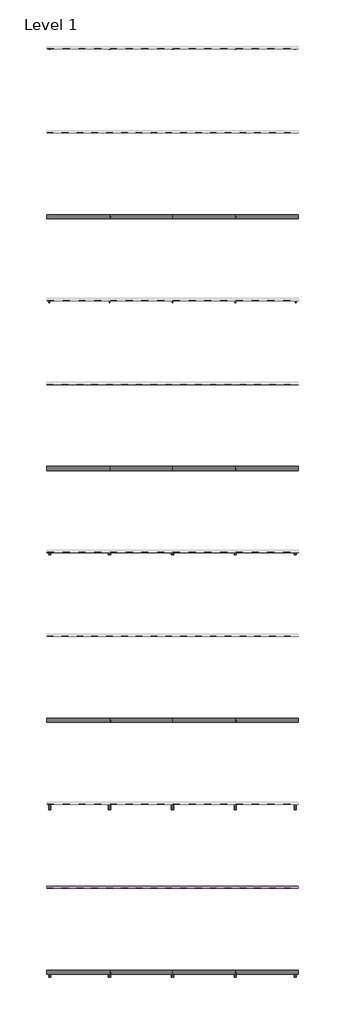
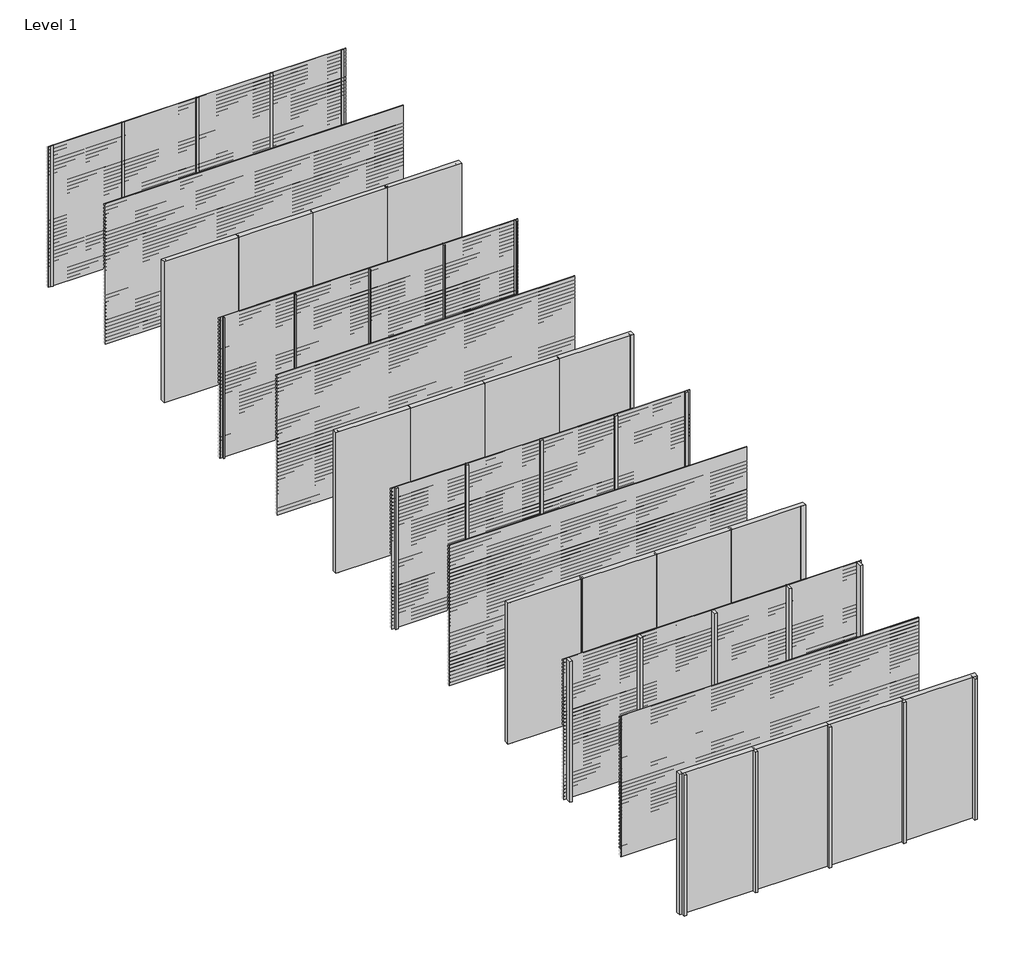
# One storey, part 1 of 9: 40 members, 38 proxies, 36 plates.
"""IFC4 building model written with IfcOpenShell, lengths in millimetres."""

from ifc_helpers import new_model, si_unit, frame, origin, origin_with_axes, place, context, project, spatial, polyline, outline, extrude, transform, mapped, element, save
from components import rectangular_mullion_bbbcbd30, rectangular_mullion_f8d4a220, rectangular_mullion_81aaf6fe, rectangular_mullion_6e08dc26, rectangular_mullion_75c52e10, rectangular_mullion_40295cf1, rectangular_mullion_7f158cb3, rectangular_mullion_66519e13, rectangular_mullion_5829b51c, rectangular_mullion_3b5b8a15, rectangular_mullion_81543344, rectangular_mullion_041a21c4, empty_system_panel_empty_ae16e1e1, empty_system_panel_empty_4cf993bc

model = new_model("IFC4")

# Units and contexts
model_context = context("Model", 3, world=origin())
ifc_project = project(units=[si_unit("LENGTHUNIT", "METRE", prefix="MILLI")], contexts=[model_context])

# Site, building, storey
site = spatial("IfcSite", under=ifc_project)
building = spatial("IfcBuilding", under=site)
storey = spatial("IfcBuildingStorey", under=building, Name="Level 1", Elevation=0.0)

# Proxies
placement = place(None, origin())
element("IfcBuildingElementProxy", 1, Name="Wall Sweeps", at=placement, inside=storey, context=model_context, shape_type="SweptSolid", body=[
    extrude(outline(polyline([(-19995.0, 3000.0), (-19995.0, 2991.2901632), (-19946.0, 2963.0), (-19946.0, 2928.0), (-19997.0, 2957.4448637), (-19997.0, 3000.0), (-19995.0, 3000.0)])), frame((0.0, 0.0, 0.0), z_axis=(1.0, 0.0, 0.0), x_axis=(0.0, 1.0, 0.0)), (0.0, 0.0, 1.0), 6000.0),
])
element("IfcBuildingElementProxy", 2, Name="Wall Sweeps", at=placement, inside=storey, context=model_context, shape_type="SweptSolid", body=[
    extrude(outline(polyline([(-19995.0, 2925.0), (-19995.0, 2916.2901632), (-19946.0, 2888.0), (-19946.0, 2853.0), (-19997.0, 2882.4448637), (-19997.0, 2925.0), (-19995.0, 2925.0)])), frame((0.0, 0.0, 0.0), z_axis=(1.0, 0.0, 0.0), x_axis=(0.0, 1.0, 0.0)), (0.0, 0.0, 1.0), 6000.0),
])
element("IfcBuildingElementProxy", 3, Name="Wall Sweeps", at=placement, inside=storey, context=model_context, shape_type="SweptSolid", body=[
    extrude(outline(polyline([(-19995.0, 2850.0), (-19995.0, 2841.2901632), (-19946.0, 2813.0), (-19946.0, 2778.0), (-19997.0, 2807.4448637), (-19997.0, 2850.0), (-19995.0, 2850.0)])), frame((0.0, 0.0, 0.0), z_axis=(1.0, 0.0, 0.0), x_axis=(0.0, 1.0, 0.0)), (0.0, 0.0, 1.0), 6000.0),
])
element("IfcBuildingElementProxy", 4, Name="Wall Sweeps", at=placement, inside=storey, context=model_context, shape_type="SweptSolid", body=[
    extrude(outline(polyline([(-19995.0, 2775.0), (-19995.0, 2766.2901632), (-19946.0, 2738.0), (-19946.0, 2703.0), (-19997.0, 2732.4448637), (-19997.0, 2775.0), (-19995.0, 2775.0)])), frame((0.0, 0.0, 0.0), z_axis=(1.0, 0.0, 0.0), x_axis=(0.0, 1.0, 0.0)), (0.0, 0.0, 1.0), 6000.0),
])
element("IfcBuildingElementProxy", 5, Name="Wall Sweeps", at=placement, inside=storey, context=model_context, shape_type="SweptSolid", body=[
    extrude(outline(polyline([(-19995.0, 2700.0), (-19995.0, 2691.2901632), (-19946.0, 2663.0), (-19946.0, 2628.0), (-19997.0, 2657.4448637), (-19997.0, 2700.0), (-19995.0, 2700.0)])), frame((0.0, 0.0, 0.0), z_axis=(1.0, 0.0, 0.0), x_axis=(0.0, 1.0, 0.0)), (0.0, 0.0, 1.0), 6000.0),
])
element("IfcBuildingElementProxy", 6, Name="Wall Sweeps", at=placement, inside=storey, context=model_context, shape_type="SweptSolid", body=[
    extrude(outline(polyline([(-19995.0, 2625.0), (-19995.0, 2616.2901632), (-19946.0, 2588.0), (-19946.0, 2553.0), (-19997.0, 2582.4448637), (-19997.0, 2625.0), (-19995.0, 2625.0)])), frame((0.0, 0.0, 0.0), z_axis=(1.0, 0.0, 0.0), x_axis=(0.0, 1.0, 0.0)), (0.0, 0.0, 1.0), 6000.0),
])
element("IfcBuildingElementProxy", 7, Name="Wall Sweeps", at=placement, inside=storey, context=model_context, shape_type="SweptSolid", body=[
    extrude(outline(polyline([(-19995.0, 2550.0), (-19995.0, 2541.2901632), (-19946.0, 2513.0), (-19946.0, 2478.0), (-19997.0, 2507.4448637), (-19997.0, 2550.0), (-19995.0, 2550.0)])), frame((0.0, 0.0, 0.0), z_axis=(1.0, 0.0, 0.0), x_axis=(0.0, 1.0, 0.0)), (0.0, 0.0, 1.0), 6000.0),
])
element("IfcBuildingElementProxy", 8, Name="Wall Sweeps", at=placement, inside=storey, context=model_context, shape_type="SweptSolid", body=[
    extrude(outline(polyline([(-19995.0, 2475.0), (-19995.0, 2466.2901632), (-19946.0, 2438.0), (-19946.0, 2403.0), (-19997.0, 2432.4448637), (-19997.0, 2475.0), (-19995.0, 2475.0)])), frame((0.0, 0.0, 0.0), z_axis=(1.0, 0.0, 0.0), x_axis=(0.0, 1.0, 0.0)), (0.0, 0.0, 1.0), 6000.0),
])
element("IfcBuildingElementProxy", 9, Name="Wall Sweeps", at=placement, inside=storey, context=model_context, shape_type="SweptSolid", body=[
    extrude(outline(polyline([(-19995.0, 2400.0), (-19995.0, 2391.2901632), (-19946.0, 2363.0), (-19946.0, 2328.0), (-19997.0, 2357.4448637), (-19997.0, 2400.0), (-19995.0, 2400.0)])), frame((0.0, 0.0, 0.0), z_axis=(1.0, 0.0, 0.0), x_axis=(0.0, 1.0, 0.0)), (0.0, 0.0, 1.0), 6000.0),
])
element("IfcBuildingElementProxy", 10, Name="Wall Sweeps", at=placement, inside=storey, context=model_context, shape_type="SweptSolid", body=[
    extrude(outline(polyline([(-19995.0, 2325.0), (-19995.0, 2316.2901632), (-19946.0, 2288.0), (-19946.0, 2253.0), (-19997.0, 2282.4448637), (-19997.0, 2325.0), (-19995.0, 2325.0)])), frame((0.0, 0.0, 0.0), z_axis=(1.0, 0.0, 0.0), x_axis=(0.0, 1.0, 0.0)), (0.0, 0.0, 1.0), 6000.0),
])
element("IfcBuildingElementProxy", 11, Name="Wall Sweeps", at=placement, inside=storey, context=model_context, shape_type="SweptSolid", body=[
    extrude(outline(polyline([(-19995.0, 2250.0), (-19995.0, 2241.2901632), (-19946.0, 2213.0), (-19946.0, 2178.0), (-19997.0, 2207.4448637), (-19997.0, 2250.0), (-19995.0, 2250.0)])), frame((0.0, 0.0, 0.0), z_axis=(1.0, 0.0, 0.0), x_axis=(0.0, 1.0, 0.0)), (0.0, 0.0, 1.0), 6000.0),
])
element("IfcBuildingElementProxy", 12, Name="Wall Sweeps", at=placement, inside=storey, context=model_context, shape_type="SweptSolid", body=[
    extrude(outline(polyline([(-19995.0, 2175.0), (-19995.0, 2166.2901632), (-19946.0, 2138.0), (-19946.0, 2103.0), (-19997.0, 2132.4448637), (-19997.0, 2175.0), (-19995.0, 2175.0)])), frame((0.0, 0.0, 0.0), z_axis=(1.0, 0.0, 0.0), x_axis=(0.0, 1.0, 0.0)), (0.0, 0.0, 1.0), 6000.0),
])
element("IfcBuildingElementProxy", 13, Name="Wall Sweeps", at=placement, inside=storey, context=model_context, shape_type="SweptSolid", body=[
    extrude(outline(polyline([(-19995.0, 2100.0), (-19995.0, 2091.2901632), (-19946.0, 2063.0), (-19946.0, 2028.0), (-19997.0, 2057.4448637), (-19997.0, 2100.0), (-19995.0, 2100.0)])), frame((0.0, 0.0, 0.0), z_axis=(1.0, 0.0, 0.0), x_axis=(0.0, 1.0, 0.0)), (0.0, 0.0, 1.0), 6000.0),
])
element("IfcBuildingElementProxy", 14, Name="Wall Sweeps", at=placement, inside=storey, context=model_context, shape_type="SweptSolid", body=[
    extrude(outline(polyline([(-19995.0, 2025.0), (-19995.0, 2016.2901632), (-19946.0, 1988.0), (-19946.0, 1953.0), (-19997.0, 1982.4448637), (-19997.0, 2025.0), (-19995.0, 2025.0)])), frame((0.0, 0.0, 0.0), z_axis=(1.0, 0.0, 0.0), x_axis=(0.0, 1.0, 0.0)), (0.0, 0.0, 1.0), 6000.0),
])
element("IfcBuildingElementProxy", 15, Name="Wall Sweeps", at=placement, inside=storey, context=model_context, shape_type="SweptSolid", body=[
    extrude(outline(polyline([(-19995.0, 1950.0), (-19995.0, 1941.2901632), (-19946.0, 1913.0), (-19946.0, 1878.0), (-19997.0, 1907.4448637), (-19997.0, 1950.0), (-19995.0, 1950.0)])), frame((0.0, 0.0, 0.0), z_axis=(1.0, 0.0, 0.0), x_axis=(0.0, 1.0, 0.0)), (0.0, 0.0, 1.0), 6000.0),
])
element("IfcBuildingElementProxy", 16, Name="Wall Sweeps", at=placement, inside=storey, context=model_context, shape_type="SweptSolid", body=[
    extrude(outline(polyline([(-19995.0, 1875.0), (-19995.0, 1866.2901632), (-19946.0, 1838.0), (-19946.0, 1803.0), (-19997.0, 1832.4448637), (-19997.0, 1875.0), (-19995.0, 1875.0)])), frame((0.0, 0.0, 0.0), z_axis=(1.0, 0.0, 0.0), x_axis=(0.0, 1.0, 0.0)), (0.0, 0.0, 1.0), 6000.0),
])
element("IfcBuildingElementProxy", 17, Name="Wall Sweeps", at=placement, inside=storey, context=model_context, shape_type="SweptSolid", body=[
    extrude(outline(polyline([(-19995.0, 1800.0), (-19995.0, 1791.2901632), (-19946.0, 1763.0), (-19946.0, 1728.0), (-19997.0, 1757.4448637), (-19997.0, 1800.0), (-19995.0, 1800.0)])), frame((0.0, 0.0, 0.0), z_axis=(1.0, 0.0, 0.0), x_axis=(0.0, 1.0, 0.0)), (0.0, 0.0, 1.0), 6000.0),
])
element("IfcBuildingElementProxy", 18, Name="Wall Sweeps", at=placement, inside=storey, context=model_context, shape_type="SweptSolid", body=[
    extrude(outline(polyline([(-19995.0, 1725.0), (-19995.0, 1716.2901632), (-19946.0, 1688.0), (-19946.0, 1653.0), (-19997.0, 1682.4448637), (-19997.0, 1725.0), (-19995.0, 1725.0)])), frame((0.0, 0.0, 0.0), z_axis=(1.0, 0.0, 0.0), x_axis=(0.0, 1.0, 0.0)), (0.0, 0.0, 1.0), 6000.0),
])
element("IfcBuildingElementProxy", 19, Name="Wall Sweeps", at=placement, inside=storey, context=model_context, shape_type="SweptSolid", body=[
    extrude(outline(polyline([(-19995.0, 1650.0), (-19995.0, 1641.2901632), (-19946.0, 1613.0), (-19946.0, 1578.0), (-19997.0, 1607.4448637), (-19997.0, 1650.0), (-19995.0, 1650.0)])), frame((0.0, 0.0, 0.0), z_axis=(1.0, 0.0, 0.0), x_axis=(0.0, 1.0, 0.0)), (0.0, 0.0, 1.0), 6000.0),
])
element("IfcBuildingElementProxy", 20, Name="Wall Sweeps", at=placement, inside=storey, context=model_context, shape_type="SweptSolid", body=[
    extrude(outline(polyline([(-19995.0, 1575.0), (-19995.0, 1566.2901632), (-19946.0, 1538.0), (-19946.0, 1503.0), (-19997.0, 1532.4448637), (-19997.0, 1575.0), (-19995.0, 1575.0)])), frame((0.0, 0.0, 0.0), z_axis=(1.0, 0.0, 0.0), x_axis=(0.0, 1.0, 0.0)), (0.0, 0.0, 1.0), 6000.0),
])
element("IfcBuildingElementProxy", 21, Name="Wall Sweeps", at=placement, inside=storey, context=model_context, shape_type="SweptSolid", body=[
    extrude(outline(polyline([(-19995.0, 1500.0), (-19995.0, 1491.2901632), (-19946.0, 1463.0), (-19946.0, 1428.0), (-19997.0, 1457.4448637), (-19997.0, 1500.0), (-19995.0, 1500.0)])), frame((0.0, 0.0, 0.0), z_axis=(1.0, 0.0, 0.0), x_axis=(0.0, 1.0, 0.0)), (0.0, 0.0, 1.0), 6000.0),
])
element("IfcBuildingElementProxy", 22, Name="Wall Sweeps", at=placement, inside=storey, context=model_context, shape_type="SweptSolid", body=[
    extrude(outline(polyline([(-19995.0, 1425.0), (-19995.0, 1416.2901632), (-19946.0, 1388.0), (-19946.0, 1353.0), (-19997.0, 1382.4448637), (-19997.0, 1425.0), (-19995.0, 1425.0)])), frame((0.0, 0.0, 0.0), z_axis=(1.0, 0.0, 0.0), x_axis=(0.0, 1.0, 0.0)), (0.0, 0.0, 1.0), 6000.0),
])
element("IfcBuildingElementProxy", 23, Name="Wall Sweeps", at=placement, inside=storey, context=model_context, shape_type="SweptSolid", body=[
    extrude(outline(polyline([(-19995.0, 1350.0), (-19995.0, 1341.2901632), (-19946.0, 1313.0), (-19946.0, 1278.0), (-19997.0, 1307.4448637), (-19997.0, 1350.0), (-19995.0, 1350.0)])), frame((0.0, 0.0, 0.0), z_axis=(1.0, 0.0, 0.0), x_axis=(0.0, 1.0, 0.0)), (0.0, 0.0, 1.0), 6000.0),
])
element("IfcBuildingElementProxy", 24, Name="Wall Sweeps", at=placement, inside=storey, context=model_context, shape_type="SweptSolid", body=[
    extrude(outline(polyline([(-19995.0, 1275.0), (-19995.0, 1266.2901632), (-19946.0, 1238.0), (-19946.0, 1203.0), (-19997.0, 1232.4448637), (-19997.0, 1275.0), (-19995.0, 1275.0)])), frame((0.0, 0.0, 0.0), z_axis=(1.0, 0.0, 0.0), x_axis=(0.0, 1.0, 0.0)), (0.0, 0.0, 1.0), 6000.0),
])
element("IfcBuildingElementProxy", 25, Name="Wall Sweeps", at=placement, inside=storey, context=model_context, shape_type="SweptSolid", body=[
    extrude(outline(polyline([(-19995.0, 1200.0), (-19995.0, 1191.2901632), (-19946.0, 1163.0), (-19946.0, 1128.0), (-19997.0, 1157.4448637), (-19997.0, 1200.0), (-19995.0, 1200.0)])), frame((0.0, 0.0, 0.0), z_axis=(1.0, 0.0, 0.0), x_axis=(0.0, 1.0, 0.0)), (0.0, 0.0, 1.0), 6000.0),
])
element("IfcBuildingElementProxy", 26, Name="Wall Sweeps", at=placement, inside=storey, context=model_context, shape_type="SweptSolid", body=[
    extrude(outline(polyline([(-19995.0, 1125.0), (-19995.0, 1116.2901632), (-19946.0, 1088.0), (-19946.0, 1053.0), (-19997.0, 1082.4448637), (-19997.0, 1125.0), (-19995.0, 1125.0)])), frame((0.0, 0.0, 0.0), z_axis=(1.0, 0.0, 0.0), x_axis=(0.0, 1.0, 0.0)), (0.0, 0.0, 1.0), 6000.0),
])
element("IfcBuildingElementProxy", 27, Name="Wall Sweeps", at=placement, inside=storey, context=model_context, shape_type="SweptSolid", body=[
    extrude(outline(polyline([(-19995.0, 1050.0), (-19995.0, 1041.2901632), (-19946.0, 1013.0), (-19946.0, 978.0), (-19997.0, 1007.4448637), (-19997.0, 1050.0), (-19995.0, 1050.0)])), frame((0.0, 0.0, 0.0), z_axis=(1.0, 0.0, 0.0), x_axis=(0.0, 1.0, 0.0)), (0.0, 0.0, 1.0), 6000.0),
])
element("IfcBuildingElementProxy", 28, Name="Wall Sweeps", at=placement, inside=storey, context=model_context, shape_type="SweptSolid", body=[
    extrude(outline(polyline([(-19995.0, 975.0), (-19995.0, 966.2901632), (-19946.0, 938.0), (-19946.0, 903.0), (-19997.0, 932.4448637), (-19997.0, 975.0), (-19995.0, 975.0)])), frame((0.0, 0.0, 0.0), z_axis=(1.0, 0.0, 0.0), x_axis=(0.0, 1.0, 0.0)), (0.0, 0.0, 1.0), 6000.0),
])
element("IfcBuildingElementProxy", 29, Name="Wall Sweeps", at=placement, inside=storey, context=model_context, shape_type="SweptSolid", body=[
    extrude(outline(polyline([(-19995.0, 900.0), (-19995.0, 891.2901632), (-19946.0, 863.0), (-19946.0, 828.0), (-19997.0, 857.4448637), (-19997.0, 900.0), (-19995.0, 900.0)])), frame((0.0, 0.0, 0.0), z_axis=(1.0, 0.0, 0.0), x_axis=(0.0, 1.0, 0.0)), (0.0, 0.0, 1.0), 6000.0),
])
element("IfcBuildingElementProxy", 30, Name="Wall Sweeps", at=placement, inside=storey, context=model_context, shape_type="SweptSolid", body=[
    extrude(outline(polyline([(-19995.0, 825.0), (-19995.0, 816.2901632), (-19946.0, 788.0), (-19946.0, 753.0), (-19997.0, 782.4448637), (-19997.0, 825.0), (-19995.0, 825.0)])), frame((0.0, 0.0, 0.0), z_axis=(1.0, 0.0, 0.0), x_axis=(0.0, 1.0, 0.0)), (0.0, 0.0, 1.0), 6000.0),
])
element("IfcBuildingElementProxy", 31, Name="Wall Sweeps", at=placement, inside=storey, context=model_context, shape_type="SweptSolid", body=[
    extrude(outline(polyline([(-19995.0, 750.0), (-19995.0, 741.2901632), (-19946.0, 713.0), (-19946.0, 678.0), (-19997.0, 707.4448637), (-19997.0, 750.0), (-19995.0, 750.0)])), frame((0.0, 0.0, 0.0), z_axis=(1.0, 0.0, 0.0), x_axis=(0.0, 1.0, 0.0)), (0.0, 0.0, 1.0), 6000.0),
])
element("IfcBuildingElementProxy", 32, Name="Wall Sweeps", at=placement, inside=storey, context=model_context, shape_type="SweptSolid", body=[
    extrude(outline(polyline([(-19995.0, 675.0), (-19995.0, 666.2901632), (-19946.0, 638.0), (-19946.0, 603.0), (-19997.0, 632.4448637), (-19997.0, 675.0), (-19995.0, 675.0)])), frame((0.0, 0.0, 0.0), z_axis=(1.0, 0.0, 0.0), x_axis=(0.0, 1.0, 0.0)), (0.0, 0.0, 1.0), 6000.0),
])
element("IfcBuildingElementProxy", 33, Name="Wall Sweeps", at=placement, inside=storey, context=model_context, shape_type="SweptSolid", body=[
    extrude(outline(polyline([(-19995.0, 600.0), (-19995.0, 591.2901632), (-19946.0, 563.0), (-19946.0, 528.0), (-19997.0, 557.4448637), (-19997.0, 600.0), (-19995.0, 600.0)])), frame((0.0, 0.0, 0.0), z_axis=(1.0, 0.0, 0.0), x_axis=(0.0, 1.0, 0.0)), (0.0, 0.0, 1.0), 6000.0),
])
element("IfcBuildingElementProxy", 34, Name="Wall Sweeps", at=placement, inside=storey, context=model_context, shape_type="SweptSolid", body=[
    extrude(outline(polyline([(-19995.0, 525.0), (-19995.0, 516.2901632), (-19946.0, 488.0), (-19946.0, 453.0), (-19997.0, 482.4448637), (-19997.0, 525.0), (-19995.0, 525.0)])), frame((0.0, 0.0, 0.0), z_axis=(1.0, 0.0, 0.0), x_axis=(0.0, 1.0, 0.0)), (0.0, 0.0, 1.0), 6000.0),
])
element("IfcBuildingElementProxy", 35, Name="Wall Sweeps", at=placement, inside=storey, context=model_context, shape_type="SweptSolid", body=[
    extrude(outline(polyline([(-19995.0, 450.0), (-19995.0, 441.2901632), (-19946.0, 413.0), (-19946.0, 378.0), (-19997.0, 407.4448637), (-19997.0, 450.0), (-19995.0, 450.0)])), frame((0.0, 0.0, 0.0), z_axis=(1.0, 0.0, 0.0), x_axis=(0.0, 1.0, 0.0)), (0.0, 0.0, 1.0), 6000.0),
])
element("IfcBuildingElementProxy", 36, Name="Wall Sweeps", at=placement, inside=storey, context=model_context, shape_type="SweptSolid", body=[
    extrude(outline(polyline([(-19995.0, 375.0), (-19995.0, 366.2901632), (-19946.0, 338.0), (-19946.0, 303.0), (-19997.0, 332.4448637), (-19997.0, 375.0), (-19995.0, 375.0)])), frame((0.0, 0.0, 0.0), z_axis=(1.0, 0.0, 0.0), x_axis=(0.0, 1.0, 0.0)), (0.0, 0.0, 1.0), 6000.0),
])
element("IfcBuildingElementProxy", 37, Name="Wall Sweeps", at=placement, inside=storey, context=model_context, shape_type="SweptSolid", body=[
    extrude(outline(polyline([(-19995.0, 300.0), (-19995.0, 291.2901632), (-19946.0, 263.0), (-19946.0, 228.0), (-19997.0, 257.4448637), (-19997.0, 300.0), (-19995.0, 300.0)])), frame((0.0, 0.0, 0.0), z_axis=(1.0, 0.0, 0.0), x_axis=(0.0, 1.0, 0.0)), (0.0, 0.0, 1.0), 6000.0),
])
element("IfcBuildingElementProxy", 38, Name="Wall Sweeps", at=placement, inside=storey, context=model_context, shape_type="SweptSolid", body=[
    extrude(outline(polyline([(-19995.0, 225.0), (-19995.0, 216.2901632), (-19946.0, 188.0), (-19946.0, 153.0), (-19997.0, 182.4448637), (-19997.0, 225.0), (-19995.0, 225.0)])), frame((0.0, 0.0, 0.0), z_axis=(1.0, 0.0, 0.0), x_axis=(0.0, 1.0, 0.0)), (0.0, 0.0, 1.0), 6000.0),
])

# Members
rectangular_mullion_shape = rectangular_mullion_bbbcbd30(model_context)
element("IfcMember", 39, ObjectType="Rectangular Mullion : RSen_21_CWM_support profile - 50x12 - left_gen_duco projects", at=placement, inside=storey, context=model_context, shape_type="MappedRepresentation", body=[
    mapped(rectangular_mullion_shape, transform((0.0, 0.0, 0.0), x_axis=(-1.0, 0.0, 0.0), y_axis=(0.0, 1.0, 0.0), z_axis=(0.0, 0.0, -1.0))),
])
element("IfcMember", 40, ObjectType="Rectangular Mullion : RSen_21_CWM_support profile - 50x12 - left_gen_duco projects", at=placement, inside=storey, context=model_context, shape_type="MappedRepresentation", body=[
    mapped(rectangular_mullion_shape, transform((0.0, -4000.0, 0.0), x_axis=(-1.0, 0.0, 0.0), y_axis=(0.0, 1.0, 0.0), z_axis=(0.0, 0.0, -1.0))),
])
rectangular_mullion_2_shape = rectangular_mullion_f8d4a220(model_context)
element("IfcMember", 41, ObjectType="Rectangular Mullion : RSen_21_CWM_support profile - 50x12 - right_gen_duco projects", at=placement, inside=storey, context=model_context, shape_type="MappedRepresentation", body=[
    mapped(rectangular_mullion_2_shape, transform((6000.0, 0.0, 3000.0), x_axis=(1.0, 0.0, 0.0), y_axis=(0.0, 1.0, 0.0), z_axis=(0.0, 0.0, 1.0))),
])
element("IfcMember", 42, ObjectType="Rectangular Mullion : RSen_21_CWM_support profile - 50x12 - right_gen_duco projects", at=placement, inside=storey, context=model_context, shape_type="MappedRepresentation", body=[
    mapped(rectangular_mullion_2_shape, transform((6000.0, -4000.0, 3000.0), x_axis=(1.0, 0.0, 0.0), y_axis=(0.0, 1.0, 0.0), z_axis=(0.0, 0.0, 1.0))),
])
rectangular_mullion_3_shape = rectangular_mullion_81aaf6fe(model_context)
element("IfcMember", 43, ObjectType="Rectangular Mullion : RSen_21_CWM_support profile - 21x50 Multi - left_gen_duco projects", at=placement, inside=storey, context=model_context, shape_type="MappedRepresentation", body=[
    mapped(rectangular_mullion_3_shape, transform((0.0, -6000.0, 0.0), x_axis=(-1.0, 0.0, 0.0), y_axis=(0.0, 1.0, 0.0), z_axis=(0.0, 0.0, -1.0))),
])
element("IfcMember", 44, ObjectType="Rectangular Mullion : RSen_21_CWM_support profile - 21x50 Multi - left_gen_duco projects", at=placement, inside=storey, context=model_context, shape_type="MappedRepresentation", body=[
    mapped(rectangular_mullion_3_shape, transform((0.0, -10000.0, 0.0), x_axis=(-1.0, 0.0, 0.0), y_axis=(0.0, 1.0, 0.0), z_axis=(0.0, 0.0, -1.0))),
])
rectangular_mullion_4_shape = rectangular_mullion_6e08dc26(model_context)
element("IfcMember", 45, ObjectType="Rectangular Mullion : RSen_21_CWM_support profile - 21x50 Multi - right_gen_duco projects", at=placement, inside=storey, context=model_context, shape_type="MappedRepresentation", body=[
    mapped(rectangular_mullion_4_shape, transform((6000.0, -6000.0, 3000.0), x_axis=(1.0, 0.0, 0.0), y_axis=(0.0, 1.0, 0.0), z_axis=(0.0, 0.0, 1.0))),
])
element("IfcMember", 46, ObjectType="Rectangular Mullion : RSen_21_CWM_support profile - 21x50 Multi - right_gen_duco projects", at=placement, inside=storey, context=model_context, shape_type="MappedRepresentation", body=[
    mapped(rectangular_mullion_4_shape, transform((6000.0, -10000.0, 3000.0), x_axis=(1.0, 0.0, 0.0), y_axis=(0.0, 1.0, 0.0), z_axis=(0.0, 0.0, 1.0))),
])
rectangular_mullion_5_shape = rectangular_mullion_75c52e10(model_context)
element("IfcMember", 47, ObjectType="Rectangular Mullion : RSen_21_CWM_support profile - 50x50 - left_gen_duco projects", at=placement, inside=storey, context=model_context, shape_type="MappedRepresentation", body=[
    mapped(rectangular_mullion_5_shape, transform((0.0, -12000.0, 0.0), x_axis=(-1.0, 0.0, 0.0), y_axis=(0.0, 1.0, 0.0), z_axis=(0.0, 0.0, -1.0))),
])
element("IfcMember", 48, ObjectType="Rectangular Mullion : RSen_21_CWM_support profile - 50x50 - left_gen_duco projects", at=placement, inside=storey, context=model_context, shape_type="MappedRepresentation", body=[
    mapped(rectangular_mullion_5_shape, transform((0.0, -16000.0, 0.0), x_axis=(-1.0, 0.0, 0.0), y_axis=(0.0, 1.0, 0.0), z_axis=(0.0, 0.0, -1.0))),
])
rectangular_mullion_6_shape = rectangular_mullion_40295cf1(model_context)
element("IfcMember", 49, ObjectType="Rectangular Mullion : RSen_21_CWM_support profile - 50x50 - right_gen_duco projects", at=placement, inside=storey, context=model_context, shape_type="MappedRepresentation", body=[
    mapped(rectangular_mullion_6_shape, transform((6000.0, -12000.0, 3000.0), x_axis=(1.0, 0.0, 0.0), y_axis=(0.0, 1.0, 0.0), z_axis=(0.0, 0.0, 1.0))),
])
element("IfcMember", 50, ObjectType="Rectangular Mullion : RSen_21_CWM_support profile - 50x50 - right_gen_duco projects", at=placement, inside=storey, context=model_context, shape_type="MappedRepresentation", body=[
    mapped(rectangular_mullion_6_shape, transform((6000.0, -16000.0, 3000.0), x_axis=(1.0, 0.0, 0.0), y_axis=(0.0, 1.0, 0.0), z_axis=(0.0, 0.0, 1.0))),
])
rectangular_mullion_7_shape = rectangular_mullion_7f158cb3(model_context)
element("IfcMember", 51, ObjectType="Rectangular Mullion : RSen_21_CWM_support profile - 50x12_gen_duco projects", at=placement, inside=storey, context=model_context, shape_type="MappedRepresentation", body=[
    mapped(rectangular_mullion_7_shape, transform((4500.0, 0.0, 0.0), x_axis=(-1.0, 0.0, 0.0), y_axis=(0.0, 1.0, 0.0), z_axis=(0.0, 0.0, -1.0))),
])
element("IfcMember", 52, ObjectType="Rectangular Mullion : RSen_21_CWM_support profile - 50x12_gen_duco projects", at=placement, inside=storey, context=model_context, shape_type="MappedRepresentation", body=[
    mapped(rectangular_mullion_7_shape, transform((3000.0, 0.0, 0.0), x_axis=(-1.0, 0.0, 0.0), y_axis=(0.0, 1.0, 0.0), z_axis=(0.0, 0.0, -1.0))),
])
element("IfcMember", 53, ObjectType="Rectangular Mullion : RSen_21_CWM_support profile - 50x12_gen_duco projects", at=placement, inside=storey, context=model_context, shape_type="MappedRepresentation", body=[
    mapped(rectangular_mullion_7_shape, transform((1500.0, 0.0, 0.0), x_axis=(-1.0, 0.0, 0.0), y_axis=(0.0, 1.0, 0.0), z_axis=(0.0, 0.0, -1.0))),
])
element("IfcMember", 54, ObjectType="Rectangular Mullion : RSen_21_CWM_support profile - 50x12_gen_duco projects", at=placement, inside=storey, context=model_context, shape_type="MappedRepresentation", body=[
    mapped(rectangular_mullion_7_shape, transform((4500.0, -4000.0, 0.0), x_axis=(-1.0, 0.0, 0.0), y_axis=(0.0, 1.0, 0.0), z_axis=(0.0, 0.0, -1.0))),
])
element("IfcMember", 55, ObjectType="Rectangular Mullion : RSen_21_CWM_support profile - 50x12_gen_duco projects", at=placement, inside=storey, context=model_context, shape_type="MappedRepresentation", body=[
    mapped(rectangular_mullion_7_shape, transform((3000.0, -4000.0, 0.0), x_axis=(-1.0, 0.0, 0.0), y_axis=(0.0, 1.0, 0.0), z_axis=(0.0, 0.0, -1.0))),
])
element("IfcMember", 56, ObjectType="Rectangular Mullion : RSen_21_CWM_support profile - 50x12_gen_duco projects", at=placement, inside=storey, context=model_context, shape_type="MappedRepresentation", body=[
    mapped(rectangular_mullion_7_shape, transform((1500.0, -4000.0, 0.0), x_axis=(-1.0, 0.0, 0.0), y_axis=(0.0, 1.0, 0.0), z_axis=(0.0, 0.0, -1.0))),
])
rectangular_mullion_8_shape = rectangular_mullion_66519e13(model_context)
element("IfcMember", 57, ObjectType="Rectangular Mullion : RSen_21_CWM_support profile - 21x50 Multi_gen_duco projects", at=placement, inside=storey, context=model_context, shape_type="MappedRepresentation", body=[
    mapped(rectangular_mullion_8_shape, transform((4500.0, -6000.0, 0.0), x_axis=(-1.0, 0.0, 0.0), y_axis=(0.0, 1.0, 0.0), z_axis=(0.0, 0.0, -1.0))),
])
element("IfcMember", 58, ObjectType="Rectangular Mullion : RSen_21_CWM_support profile - 21x50 Multi_gen_duco projects", at=placement, inside=storey, context=model_context, shape_type="MappedRepresentation", body=[
    mapped(rectangular_mullion_8_shape, transform((3000.0, -6000.0, 0.0), x_axis=(-1.0, 0.0, 0.0), y_axis=(0.0, 1.0, 0.0), z_axis=(0.0, 0.0, -1.0))),
])
element("IfcMember", 59, ObjectType="Rectangular Mullion : RSen_21_CWM_support profile - 21x50 Multi_gen_duco projects", at=placement, inside=storey, context=model_context, shape_type="MappedRepresentation", body=[
    mapped(rectangular_mullion_8_shape, transform((1500.0, -6000.0, 0.0), x_axis=(-1.0, 0.0, 0.0), y_axis=(0.0, 1.0, 0.0), z_axis=(0.0, 0.0, -1.0))),
])
element("IfcMember", 60, ObjectType="Rectangular Mullion : RSen_21_CWM_support profile - 21x50 Multi_gen_duco projects", at=placement, inside=storey, context=model_context, shape_type="MappedRepresentation", body=[
    mapped(rectangular_mullion_8_shape, transform((4500.0, -10000.0, 0.0), x_axis=(-1.0, 0.0, 0.0), y_axis=(0.0, 1.0, 0.0), z_axis=(0.0, 0.0, -1.0))),
])
element("IfcMember", 61, ObjectType="Rectangular Mullion : RSen_21_CWM_support profile - 21x50 Multi_gen_duco projects", at=placement, inside=storey, context=model_context, shape_type="MappedRepresentation", body=[
    mapped(rectangular_mullion_8_shape, transform((3000.0, -10000.0, 0.0), x_axis=(-1.0, 0.0, 0.0), y_axis=(0.0, 1.0, 0.0), z_axis=(0.0, 0.0, -1.0))),
])
element("IfcMember", 62, ObjectType="Rectangular Mullion : RSen_21_CWM_support profile - 21x50 Multi_gen_duco projects", at=placement, inside=storey, context=model_context, shape_type="MappedRepresentation", body=[
    mapped(rectangular_mullion_8_shape, transform((1500.0, -10000.0, 0.0), x_axis=(-1.0, 0.0, 0.0), y_axis=(0.0, 1.0, 0.0), z_axis=(0.0, 0.0, -1.0))),
])
rectangular_mullion_9_shape = rectangular_mullion_5829b51c(model_context)
element("IfcMember", 63, ObjectType="Rectangular Mullion : RSen_21_CWM_support profile - 50x50_gen_duco projects", at=placement, inside=storey, context=model_context, shape_type="MappedRepresentation", body=[
    mapped(rectangular_mullion_9_shape, transform((4500.0, -12000.0, 0.0), x_axis=(-1.0, 0.0, 0.0), y_axis=(0.0, 1.0, 0.0), z_axis=(0.0, 0.0, -1.0))),
])
element("IfcMember", 64, ObjectType="Rectangular Mullion : RSen_21_CWM_support profile - 50x50_gen_duco projects", at=placement, inside=storey, context=model_context, shape_type="MappedRepresentation", body=[
    mapped(rectangular_mullion_9_shape, transform((3000.0, -12000.0, 0.0), x_axis=(-1.0, 0.0, 0.0), y_axis=(0.0, 1.0, 0.0), z_axis=(0.0, 0.0, -1.0))),
])
element("IfcMember", 65, ObjectType="Rectangular Mullion : RSen_21_CWM_support profile - 50x50_gen_duco projects", at=placement, inside=storey, context=model_context, shape_type="MappedRepresentation", body=[
    mapped(rectangular_mullion_9_shape, transform((1500.0, -12000.0, 0.0), x_axis=(-1.0, 0.0, 0.0), y_axis=(0.0, 1.0, 0.0), z_axis=(0.0, 0.0, -1.0))),
])
element("IfcMember", 66, ObjectType="Rectangular Mullion : RSen_21_CWM_support profile - 50x50_gen_duco projects", at=placement, inside=storey, context=model_context, shape_type="MappedRepresentation", body=[
    mapped(rectangular_mullion_9_shape, transform((4500.0, -16000.0, 0.0), x_axis=(-1.0, 0.0, 0.0), y_axis=(0.0, 1.0, 0.0), z_axis=(0.0, 0.0, -1.0))),
])
element("IfcMember", 67, ObjectType="Rectangular Mullion : RSen_21_CWM_support profile - 50x50_gen_duco projects", at=placement, inside=storey, context=model_context, shape_type="MappedRepresentation", body=[
    mapped(rectangular_mullion_9_shape, transform((3000.0, -16000.0, 0.0), x_axis=(-1.0, 0.0, 0.0), y_axis=(0.0, 1.0, 0.0), z_axis=(0.0, 0.0, -1.0))),
])
element("IfcMember", 68, ObjectType="Rectangular Mullion : RSen_21_CWM_support profile - 50x50_gen_duco projects", at=placement, inside=storey, context=model_context, shape_type="MappedRepresentation", body=[
    mapped(rectangular_mullion_9_shape, transform((1500.0, -16000.0, 0.0), x_axis=(-1.0, 0.0, 0.0), y_axis=(0.0, 1.0, 0.0), z_axis=(0.0, 0.0, -1.0))),
])
rectangular_mullion_10_shape = rectangular_mullion_3b5b8a15(model_context)
element("IfcMember", 69, ObjectType="Rectangular Mullion : RSen_21_CWM_support profile - 50x125_gen_duco projects", at=placement, inside=storey, context=model_context, shape_type="MappedRepresentation", body=[
    mapped(rectangular_mullion_10_shape, transform((1500.0000002, -18000.0, 0.0), x_axis=(1.0, 0.0, 0.0), y_axis=(0.0, -1.0, 0.0), z_axis=(0.0, 0.0, -1.0))),
])
element("IfcMember", 70, ObjectType="Rectangular Mullion : RSen_21_CWM_support profile - 50x125_gen_duco projects", at=placement, inside=storey, context=model_context, shape_type="MappedRepresentation", body=[
    mapped(rectangular_mullion_10_shape, transform((3000.0, -18000.0, 0.0), x_axis=(1.0, 0.0, 0.0), y_axis=(0.0, -1.0, 0.0), z_axis=(0.0, 0.0, -1.0))),
])
element("IfcMember", 71, ObjectType="Rectangular Mullion : RSen_21_CWM_support profile - 50x125_gen_duco projects", at=placement, inside=storey, context=model_context, shape_type="MappedRepresentation", body=[
    mapped(rectangular_mullion_10_shape, transform((4499.9999998, -18000.0, 0.0), x_axis=(1.0, 0.0, 0.0), y_axis=(0.0, -1.0, 0.0), z_axis=(0.0, 0.0, -1.0))),
])
element("IfcMember", 72, ObjectType="Rectangular Mullion : RSen_21_CWM_support profile - 50x125_gen_duco projects", at=placement, inside=storey, context=model_context, shape_type="MappedRepresentation", body=[
    mapped(rectangular_mullion_10_shape, transform((1500.0000002, -22000.0, 0.0), x_axis=(1.0, 0.0, 0.0), y_axis=(0.0, -1.0, 0.0), z_axis=(0.0, 0.0, -1.0))),
])
element("IfcMember", 73, ObjectType="Rectangular Mullion : RSen_21_CWM_support profile - 50x125_gen_duco projects", at=placement, inside=storey, context=model_context, shape_type="MappedRepresentation", body=[
    mapped(rectangular_mullion_10_shape, transform((3000.0, -22000.0, 0.0), x_axis=(1.0, 0.0, 0.0), y_axis=(0.0, -1.0, 0.0), z_axis=(0.0, 0.0, -1.0))),
])
element("IfcMember", 74, ObjectType="Rectangular Mullion : RSen_21_CWM_support profile - 50x125_gen_duco projects", at=placement, inside=storey, context=model_context, shape_type="MappedRepresentation", body=[
    mapped(rectangular_mullion_10_shape, transform((4499.9999998, -22000.0, 0.0), x_axis=(1.0, 0.0, 0.0), y_axis=(0.0, -1.0, 0.0), z_axis=(0.0, 0.0, -1.0))),
])
rectangular_mullion_11_shape = rectangular_mullion_81543344(model_context)
element("IfcMember", 75, ObjectType="Rectangular Mullion : RSen_21_CWM_support profile - 50x125 - left_gen_duco projects", at=placement, inside=storey, context=model_context, shape_type="MappedRepresentation", body=[
    mapped(rectangular_mullion_11_shape, transform((6000.0, -18000.0, 0.0), x_axis=(1.0, 0.0, 0.0), y_axis=(0.0, -1.0, 0.0), z_axis=(0.0, 0.0, -1.0))),
])
element("IfcMember", 76, ObjectType="Rectangular Mullion : RSen_21_CWM_support profile - 50x125 - left_gen_duco projects", at=placement, inside=storey, context=model_context, shape_type="MappedRepresentation", body=[
    mapped(rectangular_mullion_11_shape, transform((6000.0, -22000.0, 0.0), x_axis=(1.0, 0.0, 0.0), y_axis=(0.0, -1.0, 0.0), z_axis=(0.0, 0.0, -1.0))),
])
rectangular_mullion_12_shape = rectangular_mullion_041a21c4(model_context)
element("IfcMember", 77, ObjectType="Rectangular Mullion : RSen_21_CWM_support profile - 50x125 - right_gen_duco projects", at=placement, inside=storey, context=model_context, shape_type="MappedRepresentation", body=[
    mapped(rectangular_mullion_12_shape, transform((0.0, -18000.0, 3000.0), x_axis=(-1.0, 0.0, 0.0), y_axis=(0.0, -1.0, 0.0), z_axis=(0.0, 0.0, 1.0))),
])
element("IfcMember", 78, ObjectType="Rectangular Mullion : RSen_21_CWM_support profile - 50x125 - right_gen_duco projects", at=placement, inside=storey, context=model_context, shape_type="MappedRepresentation", body=[
    mapped(rectangular_mullion_12_shape, transform((0.0, -22000.0, 3000.0), x_axis=(-1.0, 0.0, 0.0), y_axis=(0.0, -1.0, 0.0), z_axis=(0.0, 0.0, 1.0))),
])

# Plates
element("IfcPlate", 79, ObjectType="RSen_21_WA_louvre blade classic W 50Z-30° -75_gen_duco projects", at=placement, inside=storey, context=model_context, shape_type="SweptSolid", body=[
    extrude(outline(polyline([(0.0, 1.0), (1500.0, 1.0), (1500.0, -1.0), (0.0, -1.0), (0.0, 1.0)])), origin_with_axes(), (0.0, 0.0, 1.0), 3000.0),
])
element("IfcPlate", 80, ObjectType="RSen_21_WA_louvre blade classic W 50Z-30° -75_gen_duco projects", at=placement, inside=storey, context=model_context, shape_type="SweptSolid", body=[
    extrude(outline(polyline([(1500.0, 1.0), (3000.0, 1.0), (3000.0, -1.0), (1500.0, -1.0), (1500.0, 1.0)])), origin_with_axes(), (0.0, 0.0, 1.0), 3000.0),
])
element("IfcPlate", 81, ObjectType="RSen_21_WA_louvre blade classic W 50Z-30° -75_gen_duco projects", at=placement, inside=storey, context=model_context, shape_type="SweptSolid", body=[
    extrude(outline(polyline([(3000.0, 1.0), (4500.0, 1.0), (4500.0, -1.0), (3000.0, -1.0), (3000.0, 1.0)])), origin_with_axes(), (0.0, 0.0, 1.0), 3000.0),
])
element("IfcPlate", 82, ObjectType="RSen_21_WA_louvre blade classic W 50Z-30° -75_gen_duco projects", at=placement, inside=storey, context=model_context, shape_type="SweptSolid", body=[
    extrude(outline(polyline([(4500.0, 1.0), (6000.0, 1.0), (6000.0, -1.0), (4500.0, -1.0), (4500.0, 1.0)])), origin_with_axes(), (0.0, 0.0, 1.0), 3000.0),
])
element("IfcPlate", 83, ObjectType="RSen_21_WA_louvre blade classic W 50Z-30° -75_gen_duco projects", at=placement, inside=storey, context=model_context, shape_type="SweptSolid", body=[
    extrude(outline(polyline([(0.0, -1999.0), (6000.0, -1999.0), (6000.0, -2001.0), (0.0, -2001.0), (0.0, -1999.0)])), origin_with_axes(), (0.0, 0.0, 1.0), 3000.0),
])
element("IfcPlate", 84, ObjectType="RSen_21_WA_louvre blade classic W 50Z-30° -75_gen_duco projects", at=placement, inside=storey, context=model_context, shape_type="SweptSolid", body=[
    extrude(outline(polyline([(0.0, -5999.0), (1500.0, -5999.0), (1500.0, -6001.0), (0.0, -6001.0), (0.0, -5999.0)])), origin_with_axes(), (0.0, 0.0, 1.0), 3000.0),
])
element("IfcPlate", 85, ObjectType="RSen_21_WA_louvre blade classic W 50Z-30° -75_gen_duco projects", at=placement, inside=storey, context=model_context, shape_type="SweptSolid", body=[
    extrude(outline(polyline([(1500.0, -5999.0), (3000.0, -5999.0), (3000.0, -6001.0), (1500.0, -6001.0), (1500.0, -5999.0)])), origin_with_axes(), (0.0, 0.0, 1.0), 3000.0),
])
element("IfcPlate", 86, ObjectType="RSen_21_WA_louvre blade classic W 50Z-30° -75_gen_duco projects", at=placement, inside=storey, context=model_context, shape_type="SweptSolid", body=[
    extrude(outline(polyline([(3000.0, -5999.0), (4500.0, -5999.0), (4500.0, -6001.0), (3000.0, -6001.0), (3000.0, -5999.0)])), origin_with_axes(), (0.0, 0.0, 1.0), 3000.0),
])
element("IfcPlate", 87, ObjectType="RSen_21_WA_louvre blade classic W 50Z-30° -75_gen_duco projects", at=placement, inside=storey, context=model_context, shape_type="SweptSolid", body=[
    extrude(outline(polyline([(4500.0, -5999.0), (6000.0, -5999.0), (6000.0, -6001.0), (4500.0, -6001.0), (4500.0, -5999.0)])), origin_with_axes(), (0.0, 0.0, 1.0), 3000.0),
])
element("IfcPlate", 88, ObjectType="RSen_21_WA_louvre blade classic W 50Z-30° -75_gen_duco projects", at=placement, inside=storey, context=model_context, shape_type="SweptSolid", body=[
    extrude(outline(polyline([(0.0, -7999.0), (6000.0, -7999.0), (6000.0, -8001.0), (0.0, -8001.0), (0.0, -7999.0)])), origin_with_axes(), (0.0, 0.0, 1.0), 3000.0),
])
element("IfcPlate", 89, ObjectType="RSen_21_WA_louvre blade classic W 50Z-30° -75_gen_duco projects", at=placement, inside=storey, context=model_context, shape_type="SweptSolid", body=[
    extrude(outline(polyline([(0.0, -11999.0), (1500.0, -11999.0), (1500.0, -12001.0), (0.0, -12001.0), (0.0, -11999.0)])), origin_with_axes(), (0.0, 0.0, 1.0), 3000.0),
])
element("IfcPlate", 90, ObjectType="RSen_21_WA_louvre blade classic W 50Z-30° -75_gen_duco projects", at=placement, inside=storey, context=model_context, shape_type="SweptSolid", body=[
    extrude(outline(polyline([(1500.0, -11999.0), (3000.0, -11999.0), (3000.0, -12001.0), (1500.0, -12001.0), (1500.0, -11999.0)])), origin_with_axes(), (0.0, 0.0, 1.0), 3000.0),
])
element("IfcPlate", 91, ObjectType="RSen_21_WA_louvre blade classic W 50Z-30° -75_gen_duco projects", at=placement, inside=storey, context=model_context, shape_type="SweptSolid", body=[
    extrude(outline(polyline([(3000.0, -11999.0), (4500.0, -11999.0), (4500.0, -12001.0), (3000.0, -12001.0), (3000.0, -11999.0)])), origin_with_axes(), (0.0, 0.0, 1.0), 3000.0),
])
element("IfcPlate", 92, ObjectType="RSen_21_WA_louvre blade classic W 50Z-30° -75_gen_duco projects", at=placement, inside=storey, context=model_context, shape_type="SweptSolid", body=[
    extrude(outline(polyline([(4500.0, -11999.0), (6000.0, -11999.0), (6000.0, -12001.0), (4500.0, -12001.0), (4500.0, -11999.0)])), origin_with_axes(), (0.0, 0.0, 1.0), 3000.0),
])
element("IfcPlate", 93, ObjectType="RSen_21_WA_louvre blade classic W 50Z-30° -75_gen_duco projects", at=placement, inside=storey, context=model_context, shape_type="SweptSolid", body=[
    extrude(outline(polyline([(0.0, -13999.0), (6000.0, -13999.0), (6000.0, -14001.0), (0.0, -14001.0), (0.0, -13999.0)])), origin_with_axes(), (0.0, 0.0, 1.0), 3000.0),
])
element("IfcPlate", 94, ObjectType="RSen_21_WA_louvre blade classic W 50Z-30° -75_gen_duco projects", at=placement, inside=storey, context=model_context, shape_type="SweptSolid", body=[
    extrude(outline(polyline([(6000.0, -18001.0), (4499.9999998, -18001.0), (4499.9999998, -17999.0), (6000.0, -17999.0), (6000.0, -18001.0)])), origin_with_axes(), (0.0, 0.0, 1.0), 3000.0),
])
element("IfcPlate", 95, ObjectType="RSen_21_WA_louvre blade classic W 50Z-30° -75_gen_duco projects", at=placement, inside=storey, context=model_context, shape_type="SweptSolid", body=[
    extrude(outline(polyline([(4499.9999998, -18001.0), (3000.0, -18001.0), (3000.0, -17999.0), (4499.9999998, -17999.0), (4499.9999998, -18001.0)])), origin_with_axes(), (0.0, 0.0, 1.0), 3000.0),
])
element("IfcPlate", 96, ObjectType="RSen_21_WA_louvre blade classic W 50Z-30° -75_gen_duco projects", at=placement, inside=storey, context=model_context, shape_type="SweptSolid", body=[
    extrude(outline(polyline([(3000.0, -18001.0), (1500.0000002, -18001.0), (1500.0000002, -17999.0), (3000.0, -17999.0), (3000.0, -18001.0)])), origin_with_axes(), (0.0, 0.0, 1.0), 3000.0),
])
element("IfcPlate", 97, ObjectType="RSen_21_WA_louvre blade classic W 50Z-30° -75_gen_duco projects", at=placement, inside=storey, context=model_context, shape_type="SweptSolid", body=[
    extrude(outline(polyline([(1500.0000002, -18001.0), (0.0, -18001.0), (0.0, -17999.0), (1500.0000002, -17999.0), (1500.0000002, -18001.0)])), origin_with_axes(), (0.0, 0.0, 1.0), 3000.0),
])
element("IfcPlate", 98, ObjectType="RSen_21_WA_louvre blade classic W 50Z-30° -75_gen_duco projects", at=placement, inside=storey, context=model_context, shape_type="SweptSolid", body=[
    extrude(outline(polyline([(6000.0, -20001.0), (0.0, -20001.0), (0.0, -19999.0), (6000.0, -19999.0), (6000.0, -20001.0)])), origin_with_axes(), (0.0, 0.0, 1.0), 3000.0),
])
empty_system_panel_empty_shape = empty_system_panel_empty_ae16e1e1(model_context)
element("IfcPlate", 99, ObjectType="Empty System Panel : Empty", at=placement, inside=storey, context=model_context, shape_type="MappedRepresentation", body=[
    mapped(empty_system_panel_empty_shape, transform((5250.0, -4000.0, 0.0), x_axis=(-1.0, 0.0, 0.0), y_axis=(0.0, -1.0, 0.0), z_axis=(0.0, 0.0, 1.0))),
])
element("IfcPlate", 100, ObjectType="Empty System Panel : Empty", at=placement, inside=storey, context=model_context, shape_type="MappedRepresentation", body=[
    mapped(empty_system_panel_empty_shape, transform((5250.0, -10000.0, 0.0), x_axis=(-1.0, 0.0, 0.0), y_axis=(0.0, -1.0, 0.0), z_axis=(0.0, 0.0, 1.0))),
])
element("IfcPlate", 101, ObjectType="Empty System Panel : Empty", at=placement, inside=storey, context=model_context, shape_type="MappedRepresentation", body=[
    mapped(empty_system_panel_empty_shape, transform((5250.0, -16000.0, 0.0), x_axis=(-1.0, 0.0, 0.0), y_axis=(0.0, -1.0, 0.0), z_axis=(0.0, 0.0, 1.0))),
])
element("IfcPlate", 102, ObjectType="Empty System Panel : Empty", at=placement, inside=storey, context=model_context, shape_type="MappedRepresentation", body=[
    mapped(empty_system_panel_empty_shape, transform((3750.0, -4000.0, 0.0), x_axis=(-1.0, 0.0, 0.0), y_axis=(0.0, -1.0, 0.0), z_axis=(0.0, 0.0, 1.0))),
])
element("IfcPlate", 103, ObjectType="Empty System Panel : Empty", at=placement, inside=storey, context=model_context, shape_type="MappedRepresentation", body=[
    mapped(empty_system_panel_empty_shape, transform((2250.0, -4000.0, 0.0), x_axis=(-1.0, 0.0, 0.0), y_axis=(0.0, -1.0, 0.0), z_axis=(0.0, 0.0, 1.0))),
])
element("IfcPlate", 104, ObjectType="Empty System Panel : Empty", at=placement, inside=storey, context=model_context, shape_type="MappedRepresentation", body=[
    mapped(empty_system_panel_empty_shape, transform((750.0, -4000.0, 0.0), x_axis=(-1.0, 0.0, 0.0), y_axis=(0.0, -1.0, 0.0), z_axis=(0.0, 0.0, 1.0))),
])
element("IfcPlate", 105, ObjectType="Empty System Panel : Empty", at=placement, inside=storey, context=model_context, shape_type="MappedRepresentation", body=[
    mapped(empty_system_panel_empty_shape, transform((3750.0, -10000.0, 0.0), x_axis=(-1.0, 0.0, 0.0), y_axis=(0.0, -1.0, 0.0), z_axis=(0.0, 0.0, 1.0))),
])
element("IfcPlate", 106, ObjectType="Empty System Panel : Empty", at=placement, inside=storey, context=model_context, shape_type="MappedRepresentation", body=[
    mapped(empty_system_panel_empty_shape, transform((2250.0, -10000.0, 0.0), x_axis=(-1.0, 0.0, 0.0), y_axis=(0.0, -1.0, 0.0), z_axis=(0.0, 0.0, 1.0))),
])
element("IfcPlate", 107, ObjectType="Empty System Panel : Empty", at=placement, inside=storey, context=model_context, shape_type="MappedRepresentation", body=[
    mapped(empty_system_panel_empty_shape, transform((750.0, -10000.0, 0.0), x_axis=(-1.0, 0.0, 0.0), y_axis=(0.0, -1.0, 0.0), z_axis=(0.0, 0.0, 1.0))),
])
element("IfcPlate", 108, ObjectType="Empty System Panel : Empty", at=placement, inside=storey, context=model_context, shape_type="MappedRepresentation", body=[
    mapped(empty_system_panel_empty_shape, transform((3750.0, -16000.0, 0.0), x_axis=(-1.0, 0.0, 0.0), y_axis=(0.0, -1.0, 0.0), z_axis=(0.0, 0.0, 1.0))),
])
element("IfcPlate", 109, ObjectType="Empty System Panel : Empty", at=placement, inside=storey, context=model_context, shape_type="MappedRepresentation", body=[
    mapped(empty_system_panel_empty_shape, transform((2250.0, -16000.0, 0.0), x_axis=(-1.0, 0.0, 0.0), y_axis=(0.0, -1.0, 0.0), z_axis=(0.0, 0.0, 1.0))),
])
element("IfcPlate", 110, ObjectType="Empty System Panel : Empty", at=placement, inside=storey, context=model_context, shape_type="MappedRepresentation", body=[
    mapped(empty_system_panel_empty_shape, transform((750.0, -16000.0, 0.0), x_axis=(-1.0, 0.0, 0.0), y_axis=(0.0, -1.0, 0.0), z_axis=(0.0, 0.0, 1.0))),
])
empty_system_panel_empty_2_shape = empty_system_panel_empty_4cf993bc(model_context)
element("IfcPlate", 111, ObjectType="Empty System Panel : Empty", at=placement, inside=storey, context=model_context, shape_type="MappedRepresentation", body=[
    mapped(empty_system_panel_empty_2_shape, transform((750.0000001, -22000.0, 0.0), x_axis=(1.0, 0.0, 0.0), y_axis=(0.0, 1.0, 0.0), z_axis=(0.0, 0.0, 1.0))),
])
element("IfcPlate", 112, ObjectType="Empty System Panel : Empty", at=placement, inside=storey, context=model_context, shape_type="MappedRepresentation", body=[
    mapped(empty_system_panel_empty_2_shape, transform((2250.0000001, -22000.0, 0.0), x_axis=(1.0, 0.0, 0.0), y_axis=(0.0, 1.0, 0.0), z_axis=(0.0, 0.0, 1.0))),
])
element("IfcPlate", 113, ObjectType="Empty System Panel : Empty", at=placement, inside=storey, context=model_context, shape_type="MappedRepresentation", body=[
    mapped(empty_system_panel_empty_2_shape, transform((3749.9999999, -22000.0, 0.0), x_axis=(1.0, 0.0, 0.0), y_axis=(0.0, 1.0, 0.0), z_axis=(0.0, 0.0, 1.0))),
])
element("IfcPlate", 114, ObjectType="Empty System Panel : Empty", at=placement, inside=storey, context=model_context, shape_type="MappedRepresentation", body=[
    mapped(empty_system_panel_empty_2_shape, transform((5249.9999999, -22000.0, 0.0), x_axis=(1.0, 0.0, 0.0), y_axis=(0.0, 1.0, 0.0), z_axis=(0.0, 0.0, 1.0))),
])

save(model, "model.ifc")
